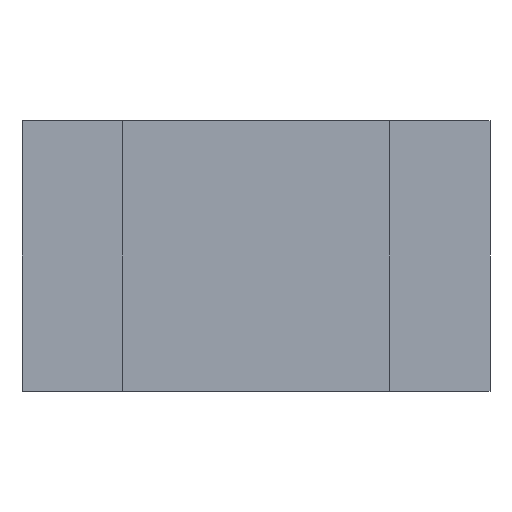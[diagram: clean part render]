
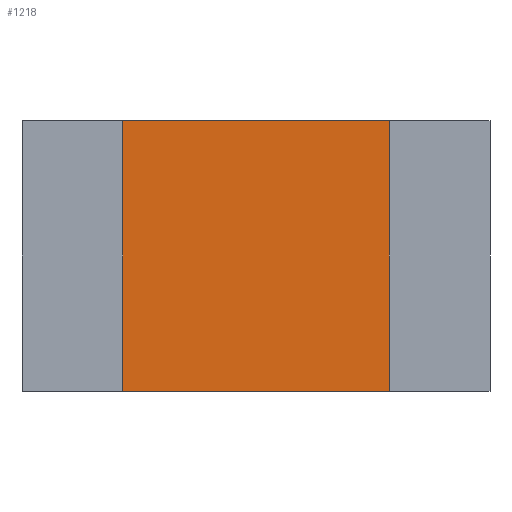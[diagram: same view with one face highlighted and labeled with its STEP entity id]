
A CAD part, front view. The second image highlights one B-rep face of the part: STEP entity #1218.
In plain terms, the highlighted planar face has unit normal (0, -1, 0).
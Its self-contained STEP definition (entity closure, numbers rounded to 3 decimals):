
#1128 = VERTEX_POINT('',#1129);
#1129 = CARTESIAN_POINT('',(-5.75,0.05,3.35));
#1135 = EDGE_CURVE('',#1128,#1136,#1138,.T.);
#1136 = VERTEX_POINT('',#1137);
#1137 = CARTESIAN_POINT('',(5.75,0.05,3.35));
#1138 = LINE('',#1139,#1140);
#1139 = CARTESIAN_POINT('',(-5.75,0.05,3.35));
#1140 = VECTOR('',#1141,1.);
#1141 = DIRECTION('',(1.,0.,0.));
#1160 = VERTEX_POINT('',#1161);
#1161 = CARTESIAN_POINT('',(-5.75,0.05,-3.35));
#1167 = EDGE_CURVE('',#1128,#1160,#1168,.T.);
#1168 = LINE('',#1169,#1170);
#1169 = CARTESIAN_POINT('',(-5.75,0.05,3.35));
#1170 = VECTOR('',#1171,1.);
#1171 = DIRECTION('',(-0.,-0.,-1.));
#1183 = EDGE_CURVE('',#1184,#1160,#1186,.T.);
#1184 = VERTEX_POINT('',#1185);
#1185 = CARTESIAN_POINT('',(5.75,0.05,-3.35));
#1186 = LINE('',#1187,#1188);
#1187 = CARTESIAN_POINT('',(-5.373,0.05,-3.35));
#1188 = VECTOR('',#1189,1.);
#1189 = DIRECTION('',(-1.,0.,0.));
#1206 = EDGE_CURVE('',#1136,#1184,#1207,.T.);
#1207 = LINE('',#1208,#1209);
#1208 = CARTESIAN_POINT('',(5.75,0.05,3.35));
#1209 = VECTOR('',#1210,1.);
#1210 = DIRECTION('',(-0.,-0.,-1.));
#1218 = ADVANCED_FACE('',(#1219),#1225,.T.);
#1219 = FACE_BOUND('',#1220,.T.);
#1220 = EDGE_LOOP('',(#1221,#1222,#1223,#1224));
#1221 = ORIENTED_EDGE('',*,*,#1135,.F.);
#1222 = ORIENTED_EDGE('',*,*,#1167,.T.);
#1223 = ORIENTED_EDGE('',*,*,#1183,.F.);
#1224 = ORIENTED_EDGE('',*,*,#1206,.F.);
#1225 = PLANE('',#1226);
#1226 = AXIS2_PLACEMENT_3D('',#1227,#1228,#1229);
#1227 = CARTESIAN_POINT('',(-5.75,0.05,3.35));
#1228 = DIRECTION('',(0.,-1.,0.));
#1229 = DIRECTION('',(1.,0.,0.));
